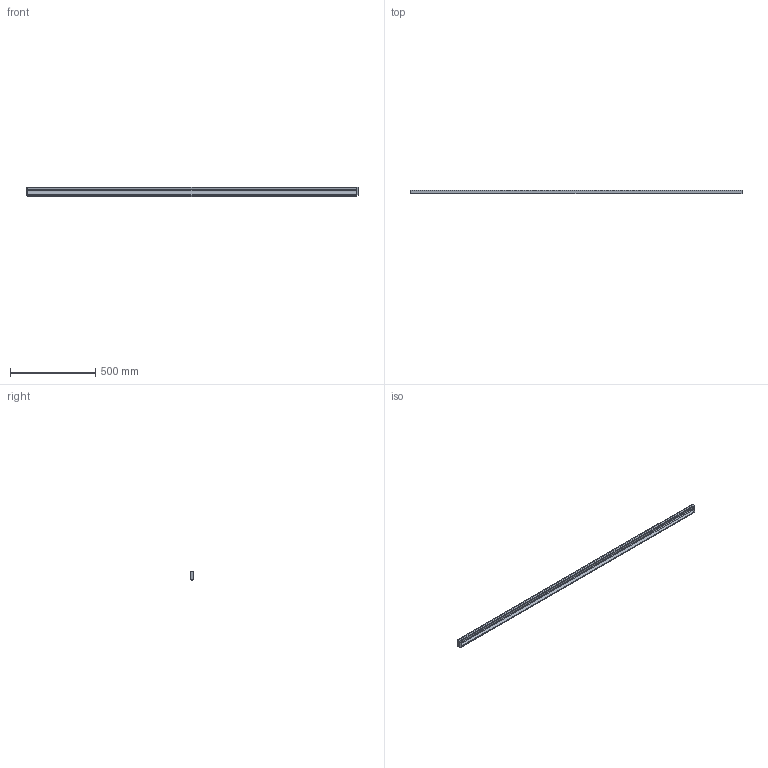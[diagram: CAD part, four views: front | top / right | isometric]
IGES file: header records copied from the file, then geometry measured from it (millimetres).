
Start section: Data from Parasolid IGES Translator 15.0.47, Copyright(c) 2006 Siemens P LM Software. All Rights Reserved.
Global section: file name: 9065683.igs; native system:  By UGS Corp.; preprocessor: XPlus GENERIC/IGES 3.0; author: Noname; organization: Noname; date: 20140122.175655; units: millimetre
Bounding box: 1950 x 21.1 x 56.5 mm (x, y, z)
Surface area: 427275.5 mm2 (no closed solid volume)
Topology: 0 solids, 0 shells, 67 faces, 376 edges, 376 vertices
Faces by surface type: extrusion 50, revolution 17
